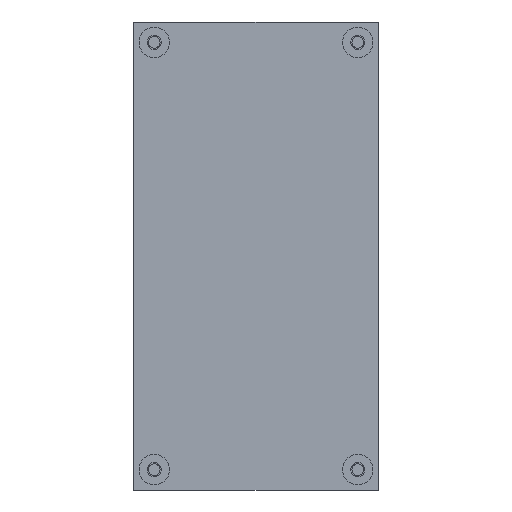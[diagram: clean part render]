
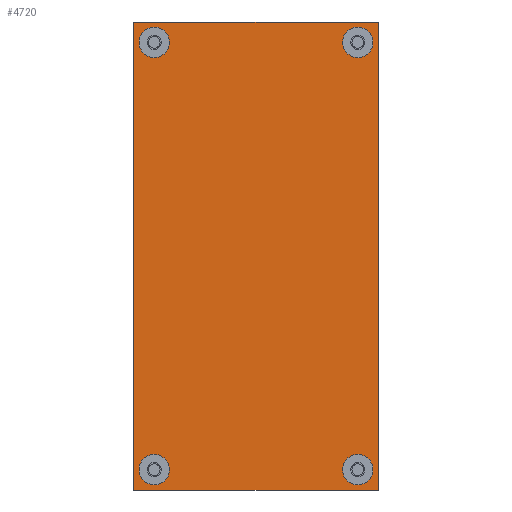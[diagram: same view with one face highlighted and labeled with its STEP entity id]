
A CAD part, front view. The second image highlights one B-rep face of the part: STEP entity #4720.
In plain terms, the highlighted planar face has unit normal (0, -1, 0).
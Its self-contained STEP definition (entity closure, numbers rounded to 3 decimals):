
#59 = AXIS2_PLACEMENT_3D ( 'NONE', #14982, #25214, #17416 ) ;
#260 = EDGE_LOOP ( 'NONE', ( #9322, #9832 ) ) ;
#694 = CARTESIAN_POINT ( 'NONE',  ( 92.322, 64.833, 17.54 ) ) ;
#840 = FACE_BOUND ( 'NONE', #260, .T. ) ;
#1113 = FACE_BOUND ( 'NONE', #8861, .T. ) ;
#1244 = DIRECTION ( 'NONE',  ( 0., 1., 0. ) ) ;
#1270 = DIRECTION ( 'NONE',  ( 1., 0., 0. ) ) ;
#1427 = CARTESIAN_POINT ( 'NONE',  ( 88.512, 64.833, 124.22 ) ) ;
#1496 = EDGE_CURVE ( 'NONE', #25369, #7719, #11792, .T. ) ;
#1517 = ORIENTED_EDGE ( 'NONE', *, *, #22408, .T. ) ;
#1626 = AXIS2_PLACEMENT_3D ( 'NONE', #694, #9242, #21083 ) ;
#1868 = CIRCLE ( 'NONE', #16861, 3.81 ) ;
#2264 = VERTEX_POINT ( 'NONE', #10634 ) ;
#2453 = ORIENTED_EDGE ( 'NONE', *, *, #7526, .T. ) ;
#2609 = CARTESIAN_POINT ( 'NONE',  ( 45.332, 64.833, 17.54 ) ) ;
#2949 = AXIS2_PLACEMENT_3D ( 'NONE', #6980, #1244, #13549 ) ;
#3105 = CARTESIAN_POINT ( 'NONE',  ( 45.332, 64.833, 124.22 ) ) ;
#3172 = EDGE_CURVE ( 'NONE', #2264, #25476, #7477, .T. ) ;
#3184 = VECTOR ( 'NONE', #23883, 1000. ) ;
#3393 = FACE_OUTER_BOUND ( 'NONE', #26095, .T. ) ;
#3572 = VERTEX_POINT ( 'NONE', #6445 ) ;
#3994 = CARTESIAN_POINT ( 'NONE',  ( 97.402, 64.833, 12.46 ) ) ;
#4028 = AXIS2_PLACEMENT_3D ( 'NONE', #6425, #10460, #20687 ) ;
#4376 = VERTEX_POINT ( 'NONE', #8301 ) ;
#4682 = VERTEX_POINT ( 'NONE', #3105 ) ;
#4720 = ADVANCED_FACE ( 'NONE', ( #840, #1113, #11013, #25677, #3393 ), #19626, .F. ) ;
#4884 = EDGE_CURVE ( 'NONE', #4682, #14588, #21847, .T. ) ;
#4894 = CIRCLE ( 'NONE', #4028, 3.81 ) ;
#4989 = EDGE_CURVE ( 'NONE', #13452, #3572, #22243, .T. ) ;
#5167 = EDGE_CURVE ( 'NONE', #15158, #17890, #5590, .T. ) ;
#5590 = CIRCLE ( 'NONE', #59, 3.81 ) ;
#5668 = EDGE_CURVE ( 'NONE', #7719, #2264, #15402, .T. ) ;
#5712 = CIRCLE ( 'NONE', #14720, 3.81 ) ;
#5909 = DIRECTION ( 'NONE',  ( 1., 0., 0. ) ) ;
#6229 = CARTESIAN_POINT ( 'NONE',  ( 36.442, 64.833, 12.46 ) ) ;
#6425 = CARTESIAN_POINT ( 'NONE',  ( 92.322, 64.833, 17.54 ) ) ;
#6445 = CARTESIAN_POINT ( 'NONE',  ( 96.132, 64.833, 17.54 ) ) ;
#6616 = EDGE_CURVE ( 'NONE', #17890, #15158, #5712, .T. ) ;
#6681 = DIRECTION ( 'NONE',  ( 0., 0., -1. ) ) ;
#6980 = CARTESIAN_POINT ( 'NONE',  ( 36.442, 64.833, 129.3 ) ) ;
#7477 = LINE ( 'NONE', #15674, #3184 ) ;
#7526 = EDGE_CURVE ( 'NONE', #14588, #4682, #20225, .T. ) ;
#7719 = VERTEX_POINT ( 'NONE', #6229 ) ;
#8199 = ORIENTED_EDGE ( 'NONE', *, *, #1496, .F. ) ;
#8301 = CARTESIAN_POINT ( 'NONE',  ( 96.132, 64.833, 124.22 ) ) ;
#8389 = ORIENTED_EDGE ( 'NONE', *, *, #10072, .F. ) ;
#8861 = EDGE_LOOP ( 'NONE', ( #1517, #17977 ) ) ;
#9088 = EDGE_CURVE ( 'NONE', #3572, #13452, #4894, .T. ) ;
#9242 = DIRECTION ( 'NONE',  ( 0., 1., 0. ) ) ;
#9322 = ORIENTED_EDGE ( 'NONE', *, *, #6616, .T. ) ;
#9518 = DIRECTION ( 'NONE',  ( 1., 0., 0. ) ) ;
#9770 = VECTOR ( 'NONE', #21786, 1000. ) ;
#9832 = ORIENTED_EDGE ( 'NONE', *, *, #5167, .T. ) ;
#9899 = DIRECTION ( 'NONE',  ( 1., 0., 0. ) ) ;
#10072 = EDGE_CURVE ( 'NONE', #25476, #25369, #25497, .T. ) ;
#10460 = DIRECTION ( 'NONE',  ( 0., 1., 0. ) ) ;
#10634 = CARTESIAN_POINT ( 'NONE',  ( 36.442, 64.833, 129.3 ) ) ;
#10985 = DIRECTION ( 'NONE',  ( 0., 0., 1. ) ) ;
#11013 = FACE_BOUND ( 'NONE', #20374, .T. ) ;
#11454 = EDGE_LOOP ( 'NONE', ( #21560, #22859 ) ) ;
#11476 = ORIENTED_EDGE ( 'NONE', *, *, #5668, .F. ) ;
#11507 = CARTESIAN_POINT ( 'NONE',  ( 36.442, 64.833, 12.46 ) ) ;
#11531 = CARTESIAN_POINT ( 'NONE',  ( 41.522, 64.833, 124.22 ) ) ;
#11792 = LINE ( 'NONE', #26455, #9770 ) ;
#11901 = CARTESIAN_POINT ( 'NONE',  ( 37.712, 64.833, 124.22 ) ) ;
#11942 = DIRECTION ( 'NONE',  ( 0., 1., 0. ) ) ;
#12181 = DIRECTION ( 'NONE',  ( 0., 1., 0. ) ) ;
#12366 = EDGE_CURVE ( 'NONE', #4376, #25520, #17234, .T. ) ;
#12942 = CARTESIAN_POINT ( 'NONE',  ( 97.402, 64.833, 129.3 ) ) ;
#13452 = VERTEX_POINT ( 'NONE', #20804 ) ;
#13549 = DIRECTION ( 'NONE',  ( 1., 0., 0. ) ) ;
#13671 = DIRECTION ( 'NONE',  ( 1., 0., 0. ) ) ;
#14588 = VERTEX_POINT ( 'NONE', #11901 ) ;
#14720 = AXIS2_PLACEMENT_3D ( 'NONE', #26176, #12181, #9899 ) ;
#14982 = CARTESIAN_POINT ( 'NONE',  ( 41.522, 64.833, 17.54 ) ) ;
#15158 = VERTEX_POINT ( 'NONE', #2609 ) ;
#15402 = LINE ( 'NONE', #11507, #22753 ) ;
#15674 = CARTESIAN_POINT ( 'NONE',  ( 36.442, 64.833, 129.3 ) ) ;
#16657 = CARTESIAN_POINT ( 'NONE',  ( 92.322, 64.833, 124.22 ) ) ;
#16861 = AXIS2_PLACEMENT_3D ( 'NONE', #22227, #25833, #1270 ) ;
#17234 = CIRCLE ( 'NONE', #26238, 3.81 ) ;
#17416 = DIRECTION ( 'NONE',  ( 1., 0., 0. ) ) ;
#17521 = ORIENTED_EDGE ( 'NONE', *, *, #3172, .F. ) ;
#17562 = CARTESIAN_POINT ( 'NONE',  ( 97.402, 64.833, 12.46 ) ) ;
#17890 = VERTEX_POINT ( 'NONE', #20600 ) ;
#17977 = ORIENTED_EDGE ( 'NONE', *, *, #12366, .T. ) ;
#19626 = PLANE ( 'NONE',  #2949 ) ;
#19741 = DIRECTION ( 'NONE',  ( 0., 1., 0. ) ) ;
#20225 = CIRCLE ( 'NONE', #21099, 3.81 ) ;
#20374 = EDGE_LOOP ( 'NONE', ( #2453, #23249 ) ) ;
#20600 = CARTESIAN_POINT ( 'NONE',  ( 37.712, 64.833, 17.54 ) ) ;
#20687 = DIRECTION ( 'NONE',  ( 1., 0., 0. ) ) ;
#20804 = CARTESIAN_POINT ( 'NONE',  ( 88.512, 64.833, 17.54 ) ) ;
#21083 = DIRECTION ( 'NONE',  ( 1., 0., 0. ) ) ;
#21099 = AXIS2_PLACEMENT_3D ( 'NONE', #11531, #19741, #9518 ) ;
#21560 = ORIENTED_EDGE ( 'NONE', *, *, #4989, .T. ) ;
#21786 = DIRECTION ( 'NONE',  ( -1., 0., 0. ) ) ;
#21847 = CIRCLE ( 'NONE', #26542, 3.81 ) ;
#22227 = CARTESIAN_POINT ( 'NONE',  ( 92.322, 64.833, 124.22 ) ) ;
#22243 = CIRCLE ( 'NONE', #1626, 3.81 ) ;
#22408 = EDGE_CURVE ( 'NONE', #25520, #4376, #1868, .T. ) ;
#22753 = VECTOR ( 'NONE', #10985, 1000. ) ;
#22859 = ORIENTED_EDGE ( 'NONE', *, *, #9088, .T. ) ;
#23249 = ORIENTED_EDGE ( 'NONE', *, *, #4884, .T. ) ;
#23713 = VECTOR ( 'NONE', #6681, 1000. ) ;
#23883 = DIRECTION ( 'NONE',  ( 1., 0., 0. ) ) ;
#23922 = CARTESIAN_POINT ( 'NONE',  ( 41.522, 64.833, 124.22 ) ) ;
#25214 = DIRECTION ( 'NONE',  ( 0., 1., 0. ) ) ;
#25369 = VERTEX_POINT ( 'NONE', #3994 ) ;
#25476 = VERTEX_POINT ( 'NONE', #12942 ) ;
#25497 = LINE ( 'NONE', #17562, #23713 ) ;
#25520 = VERTEX_POINT ( 'NONE', #1427 ) ;
#25677 = FACE_BOUND ( 'NONE', #11454, .T. ) ;
#25833 = DIRECTION ( 'NONE',  ( 0., 1., 0. ) ) ;
#26095 = EDGE_LOOP ( 'NONE', ( #11476, #8199, #8389, #17521 ) ) ;
#26176 = CARTESIAN_POINT ( 'NONE',  ( 41.522, 64.833, 17.54 ) ) ;
#26238 = AXIS2_PLACEMENT_3D ( 'NONE', #16657, #26474, #5909 ) ;
#26455 = CARTESIAN_POINT ( 'NONE',  ( 36.442, 64.833, 12.46 ) ) ;
#26474 = DIRECTION ( 'NONE',  ( 0., 1., 0. ) ) ;
#26542 = AXIS2_PLACEMENT_3D ( 'NONE', #23922, #11942, #13671 ) ;
